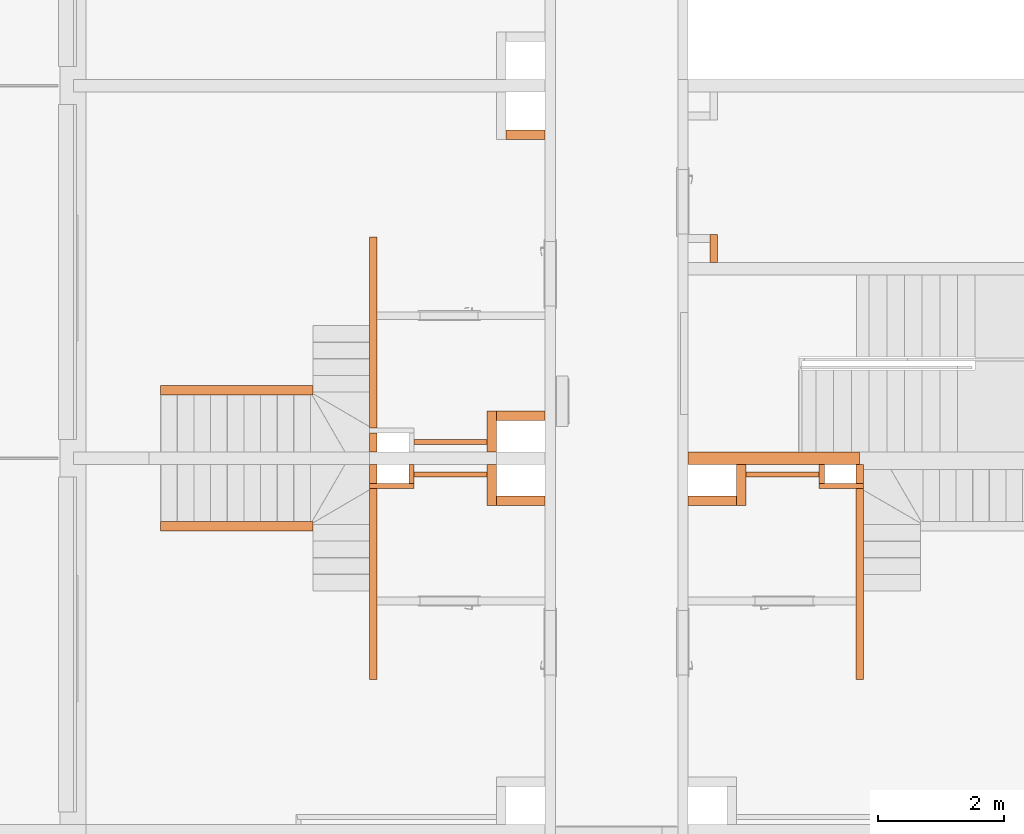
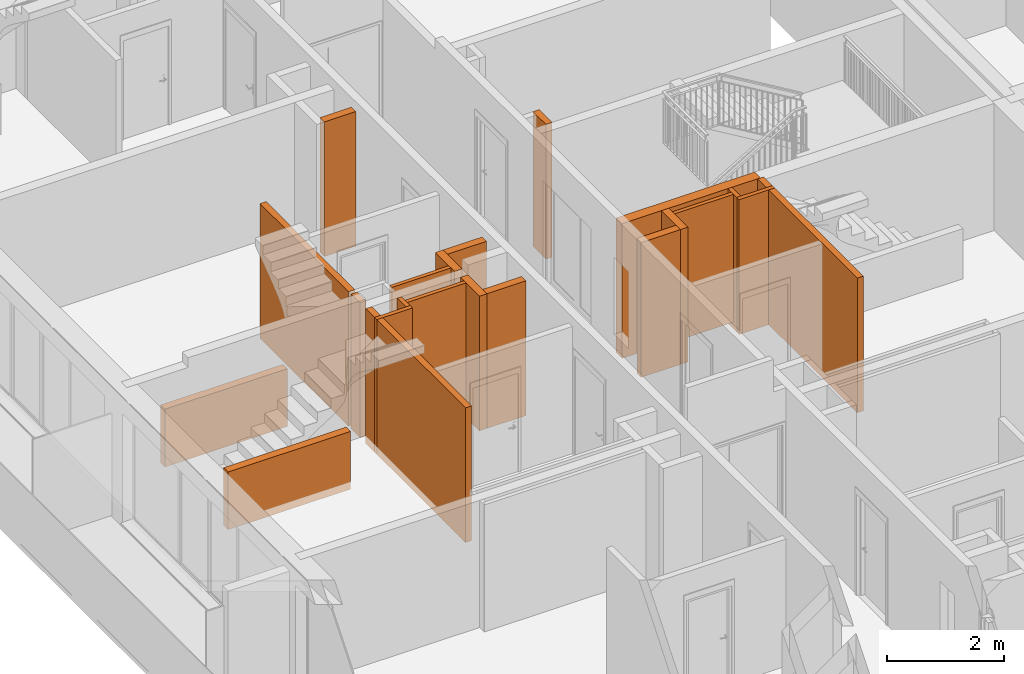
# One storey, part 47 of 61: 21 proxies.
"""IFC2X3 building model written with IfcOpenShell, lengths in millimetres."""

from ifc_helpers import new_model, entity, si_unit, converted_unit, derived_unit, money_unit, direction, frame, origin_with_axes, place, context, subcontext, project, spatial, faceted_brep, material, material_list, type_object, element, save


model = new_model("IFC2X3")

# Units and contexts
model_context = context("Model", 3, precision=0.01, world=origin_with_axes(), true_north=direction((0.34421633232, 0.938890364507)))
body_context = subcontext(model_context, "Body", "Model", "MODEL_VIEW")
ifc_project = project(units=[si_unit("LENGTHUNIT", "METRE", prefix="MILLI"), si_unit("AREAUNIT", "SQUARE_METRE"), si_unit("VOLUMEUNIT", "CUBIC_METRE"), converted_unit("PLANEANGLEUNIT", "DEGREE", entity("IfcPlaneAngleMeasure", 0.0174532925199), si_unit("PLANEANGLEUNIT", "RADIAN"), dimensions=[0, 0, 0, 0, 0, 0, 0]), si_unit("SOLIDANGLEUNIT", "STERADIAN"), money_unit("USD"), converted_unit("TIMEUNIT", "Year", entity("IfcTimeMeasure", 31556926.0), si_unit("TIMEUNIT", "SECOND"), dimensions=[0, 0, 1, 0, 0, 0, 0]), si_unit("MASSUNIT", "GRAM", prefix="KILO"), si_unit("THERMODYNAMICTEMPERATUREUNIT", "DEGREE_CELSIUS"), si_unit("LUMINOUSINTENSITYUNIT", "LUMEN"), si_unit("ENERGYUNIT", "JOULE", prefix="MEGA"), derived_unit("THERMALCONDUCTANCEUNIT", [(si_unit("POWERUNIT", "WATT"), 1), (si_unit("LENGTHUNIT", "METRE"), -1), (si_unit("THERMODYNAMICTEMPERATUREUNIT", "KELVIN"), -1)]), derived_unit("SPECIFICHEATCAPACITYUNIT", [(si_unit("ENERGYUNIT", "JOULE"), 1), (si_unit("MASSUNIT", "GRAM", prefix="KILO"), -1), (si_unit("THERMODYNAMICTEMPERATUREUNIT", "KELVIN"), -1)]), derived_unit("MASSDENSITYUNIT", [(si_unit("MASSUNIT", "GRAM", prefix="KILO"), 1), (si_unit("VOLUMEUNIT", "CUBIC_METRE"), -1)])], contexts=[model_context])

# Site, building, storey
site_placement = place(None, origin_with_axes())
site = spatial("IfcSite", under=ifc_project, at=site_placement, Name="USTRONIE MORSKIE", CompositionType="ELEMENT")
building_placement = place(site_placement, origin_with_axes())
building = spatial("IfcBuilding", under=site, at=building_placement, Name="Budynek", CompositionType="ELEMENT")
storey_placement = place(building_placement, frame((0.0, 0.0, 13000.0), z_axis=(0.0, 0.0, 1.0), x_axis=(1.0, 0.0, 0.0)))
storey = spatial("IfcBuildingStorey", under=building, at=storey_placement, Name="PIĘTRO 4", CompositionType="ELEMENT", Elevation=13000.0)

# Proxies
ifc_material_1 = material(Name="Bloczki silikatowe")
building_element_proxy_type_1 = type_object("IfcBuildingElementProxyType", Name="Bloczki silikatowe 120", PredefinedType="NOTDEFINED")
proxy_1_placement = place(storey_placement, frame((362417.920919, 726901.198998, -160.0), z_axis=(0.0, 0.0, 1.0), x_axis=(0.0, -1.0, 0.0)))
element("IfcBuildingElementProxy", 1, at=proxy_1_placement, inside=storey, type_object=building_element_proxy_type_1, material=ifc_material_1, Name="SW-04", context=body_context, shape_type="Brep", body=[
    faceted_brep([(400.000444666, 60.0, 0.0), (99.9999622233, 60.0, 0.0), (99.9999622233, 60.0, 2800.0), (400.000444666, 60.0, 2800.0), (99.9999622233, -60.0, 0.0), (99.9999622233, 0.0, 0.0), (400.000444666, -60.0, 0.0), (99.9999622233, 0.0, 2800.0), (99.9999622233, -60.0, 2800.0), (400.000444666, -60.0, 2800.0)], [[[0, 1, 2, 3]], [[4, 5, 1, 0, 6]], [[5, 7, 2, 1]], [[2, 7, 8, 9, 3]], [[6, 0, 3, 9]], [[4, 8, 7, 5]], [[9, 8, 4, 6]]]),
    faceted_brep([(480.000444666, 60.0, 0.0), (480.000444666, 60.0, 2800.0), (3499.97686691, 60.0, 2800.0), (3499.97686691, 60.0, 0.0), (480.000444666, -60.0, 2800.0), (480.000444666, -60.0, 0.0), (3499.97686691, -60.0, 2800.0), (3499.97686691, -60.0, 0.0)], [[[0, 1, 2, 3]], [[4, 1, 0, 5]], [[1, 4, 6, 2]], [[6, 7, 3, 2]], [[5, 0, 3, 7]], [[4, 5, 7, 6]]]),
])
proxy_2_placement = place(storey_placement, frame((354717.920919, 726901.199074, -160.0), z_axis=(0.0, 0.0, 1.0), x_axis=(0.0, 1.0, 0.0)))
element("IfcBuildingElementProxy", 2, at=proxy_2_placement, inside=storey, type_object=building_element_proxy_type_1, material=ifc_material_1, Name="SW-04", context=body_context, shape_type="Brep", body=[
    faceted_brep([(400.000444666, 60.0, 0.0), (399.999962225, 60.0, 2800.0), (399.999962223, -60.0, 2800.0), (400.000444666, -60.0, 0.0), (99.9999622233, 60.0, 0.0), (99.9999622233, 60.0, 2800.0), (99.9999622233, -60.0, 2800.0), (99.9999622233, -60.0, 0.0)], [[[0, 1, 2, 3]], [[4, 5, 1, 0]], [[5, 6, 2, 1]], [[3, 2, 6, 7]], [[7, 4, 0, 3]], [[7, 6, 5, 4]]]),
    faceted_brep([(3499.97686691, 60.0, 0.0), (3499.97686691, 60.0, 2800.0), (3499.97686691, -60.0, 2800.0), (3499.97686691, -60.0, 0.0), (480.000444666, 60.0, 2800.0), (2099.97686691, 60.0, 2800.0), (480.000444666, 60.0, 0.0), (480.000444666, -60.0, 2800.0), (480.000444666, -60.0, 0.0)], [[[0, 1, 2, 3]], [[4, 5, 1, 0, 6]], [[7, 2, 1, 5, 4]], [[3, 2, 7, 8]], [[0, 3, 8, 6]], [[8, 7, 4, 6]]]),
])
proxy_3_placement = place(storey_placement, frame((354717.920919, 726901.198998, -160.0), z_axis=(0.0, 0.0, 1.0), x_axis=(0.0, -1.0, 0.0)))
element("IfcBuildingElementProxy", 3, at=proxy_3_placement, inside=storey, type_object=building_element_proxy_type_1, material=ifc_material_1, Name="SW-04", context=body_context, shape_type="Brep", body=[
    faceted_brep([(480.000444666, -60.0, 2800.0), (2099.99996266, -60.0, 2800.0), (3499.97686691, -60.0, 2800.0), (3499.97686691, 60.0, 2800.0), (480.000444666, 60.0, 2800.0), (3499.97686691, -60.0, 0.0), (480.000444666, -60.0, 0.0), (3499.97686691, 60.0, 0.0), (480.000444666, 60.0, 0.0)], [[[0, 1, 2, 3, 4]], [[5, 2, 1, 0, 6]], [[7, 3, 2, 5]], [[4, 3, 7, 8]], [[6, 0, 4, 8]], [[7, 5, 6, 8]]]),
    faceted_brep([(99.9999622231, -60.0, 0.0), (99.9999622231, -60.0, 2800.0), (99.9999622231, 60.0, 2800.0), (99.9999622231, 60.0, 0.0), (400.000444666, -60.0, 0.0), (400.000444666, -60.0, 2800.0), (400.000444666, 60.0, 2800.0), (400.000444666, 60.0, 0.0)], [[[0, 1, 2, 3]], [[4, 5, 1, 0]], [[5, 6, 2, 1]], [[3, 2, 6, 7]], [[0, 3, 7, 4]], [[7, 6, 5, 4]]]),
])
proxy_4_placement = place(storey_placement, frame((360047.920919, 729901.198865, -160.0), z_axis=(0.0, 0.0, 1.0), x_axis=(0.0, 1.0, 0.0)))
element("IfcBuildingElementProxy", 4, at=proxy_4_placement, inside=storey, type_object=building_element_proxy_type_1, material=ifc_material_1, Name="SW-04", context=body_context, shape_type="Brep", body=[
    faceted_brep([(540.000171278, -120.0, 2800.0), (540.000171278, 0.0, 2800.0), (100.000168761, 0.0, 2800.0), (100.000168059, -120.0, 2800.0), (540.000171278, -120.0, 0.0), (540.000171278, 0.0, 0.0), (100.000168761, 0.0, 0.0), (100.000168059, -120.0, 0.0)], [[[0, 1, 2, 3]], [[1, 0, 4, 5]], [[1, 5, 6, 2]], [[7, 3, 2, 6]], [[4, 0, 3, 7]], [[5, 4, 7, 6]]]),
])
ifc_material_2 = material(Name="Płyta GK")
ifc_material_3 = material(Name="-Pustka powietrzna")
ifc_material_list_1 = material_list([ifc_material_2, ifc_material_2, ifc_material_3])
building_element_proxy_type_2 = type_object("IfcBuildingElementProxyType", Name="330-SD GK 2-warstwy 75", PredefinedType="NOTDEFINED")
proxy_5_placement = place(storey_placement, frame((361817.920919, 726631.200807, -180.0), z_axis=(0.0, 0.0, 1.0), x_axis=(-1.0, 0.0, 0.0)))
element("IfcBuildingElementProxy", 5, at=proxy_5_placement, inside=storey, type_object=building_element_proxy_type_2, material=ifc_material_list_1, Name="Ściana-009", context=body_context, shape_type="Brep", body=[
    faceted_brep([(40.0, 25.0, 165.0), (40.0, 12.5, 165.0), (40.0, 12.5, 2820.0), (40.0, 25.0, 2820.0), (1199.99909883, 12.5, 165.0), (1199.99909883, 25.0, 165.0), (1199.99909883, 12.5, 2820.0), (1199.99909883, 25.0, 2820.0)], [[[0, 1, 2, 3]], [[4, 1, 0, 5]], [[1, 4, 6, 2]], [[2, 6, 7, 3]], [[5, 0, 3, 7]], [[4, 5, 7, 6]]]),
    faceted_brep([(40.0, 12.5, 165.0), (40.0, 0.0, 165.0), (40.0, 0.0, 2820.0), (40.0, 12.5, 2820.0), (1199.99909883, 0.0, 165.0), (1199.99909883, 12.5, 165.0), (1199.99909883, 0.0, 2820.0), (1199.99909883, 12.5, 2820.0)], [[[0, 1, 2, 3]], [[4, 1, 0, 5]], [[1, 4, 6, 2]], [[2, 6, 7, 3]], [[5, 0, 3, 7]], [[4, 5, 7, 6]]]),
    faceted_brep([(40.0, 0.0, 180.0), (40.0, -50.0, 180.0), (40.0, -50.0, 2820.0), (40.0, 0.0, 2820.0), (1199.99909883, -50.0, 180.0), (1199.99909883, 0.0, 180.0), (1199.99909883, -50.0, 2820.0), (1199.99909883, 0.0, 2820.0)], [[[0, 1, 2, 3]], [[4, 1, 0, 5]], [[1, 4, 6, 2]], [[2, 6, 7, 3]], [[5, 0, 3, 7]], [[4, 5, 7, 6]]]),
])
ifc_material_list_2 = material_list([ifc_material_3, ifc_material_2, ifc_material_2])
proxy_6_placement = place(storey_placement, frame((355317.920919, 726631.200807, -180.0), z_axis=(0.0, 0.0, 1.0), x_axis=(1.0, 0.0, 0.0)))
element("IfcBuildingElementProxy", 6, at=proxy_6_placement, inside=storey, type_object=building_element_proxy_type_2, material=ifc_material_list_2, Name="Ściana-009", context=body_context, shape_type="Brep", body=[
    faceted_brep([(1199.99909883, 0.0, 180.0), (1199.99909883, 50.0, 180.0), (1199.99909883, 50.0, 2820.0), (1199.99909883, 0.0, 2820.0), (40.0, 50.0, 180.0), (40.0, 0.0, 180.0), (40.0, 50.0, 2820.0), (40.0, 0.0, 2820.0)], [[[0, 1, 2, 3]], [[4, 1, 0, 5]], [[1, 4, 6, 2]], [[7, 3, 2, 6]], [[5, 0, 3, 7]], [[4, 5, 7, 6]]]),
    faceted_brep([(1199.99909883, -12.5, 165.0), (1199.99909883, 0.0, 165.0), (1199.99909883, 0.0, 2820.0), (1199.99909883, -12.5, 2820.0), (40.0, 0.0, 165.0), (40.0, -12.5, 165.0), (40.0, 0.0, 2820.0), (40.0, -12.5, 2820.0)], [[[0, 1, 2, 3]], [[4, 1, 0, 5]], [[1, 4, 6, 2]], [[7, 3, 2, 6]], [[5, 0, 3, 7]], [[4, 5, 7, 6]]]),
    faceted_brep([(1199.99909883, -25.0, 165.0), (1199.99909883, -12.5, 165.0), (1199.99909883, -12.5, 2820.0), (1199.99909883, -25.0, 2820.0), (40.0, -12.5, 165.0), (40.0, -25.0, 165.0), (40.0, -12.5, 2820.0), (40.0, -25.0, 2820.0)], [[[0, 1, 2, 3]], [[4, 1, 0, 5]], [[1, 4, 6, 2]], [[7, 3, 2, 6]], [[5, 0, 3, 7]], [[4, 5, 7, 6]]]),
])
proxy_7_placement = place(storey_placement, frame((355317.920919, 727171.200737, -180.0), z_axis=(0.0, 0.0, 1.0), x_axis=(1.0, 0.0, 0.0)))
element("IfcBuildingElementProxy", 7, at=proxy_7_placement, inside=storey, type_object=building_element_proxy_type_2, material=ifc_material_list_1, Name="Ściana-009", context=body_context, shape_type="Brep", body=[
    faceted_brep([(1199.99909883, 12.5, 165.0), (1199.99909883, 25.0, 165.0), (1199.99909883, 25.0, 2820.0), (1199.99909883, 12.5, 2820.0), (40.0, 25.0, 165.0), (40.0, 12.5, 165.0), (40.0, 25.0, 2820.0), (40.0, 12.5, 2820.0)], [[[0, 1, 2, 3]], [[4, 1, 0, 5]], [[1, 4, 6, 2]], [[7, 3, 2, 6]], [[5, 0, 3, 7]], [[4, 5, 7, 6]]]),
    faceted_brep([(1199.99909883, 0.0, 165.0), (1199.99909883, 12.5, 165.0), (1199.99909883, 12.5, 2820.0), (1199.99909883, 0.0, 2820.0), (40.0, 12.5, 165.0), (40.0, 0.0, 165.0), (40.0, 12.5, 2820.0), (40.0, 0.0, 2820.0)], [[[0, 1, 2, 3]], [[4, 1, 0, 5]], [[1, 4, 6, 2]], [[7, 3, 2, 6]], [[5, 0, 3, 7]], [[4, 5, 7, 6]]]),
    faceted_brep([(1199.99909883, -50.0, 180.0), (1199.99909883, 0.0, 180.0), (1199.99909883, 0.0, 2820.0), (1199.99909883, -50.0, 2820.0), (40.0, 0.0, 180.0), (40.0, -50.0, 180.0), (40.0, 0.0, 2820.0), (40.0, -50.0, 2820.0)], [[[0, 1, 2, 3]], [[4, 1, 0, 5]], [[1, 4, 6, 2]], [[7, 3, 2, 6]], [[5, 0, 3, 7]], [[4, 5, 7, 6]]]),
])
building_element_proxy_type_3 = type_object("IfcBuildingElementProxyType", Name="Bloczki silikatowe 80", PredefinedType="NOTDEFINED")
proxy_8_placement = place(storey_placement, frame((361817.920919, 726901.199036, -160.0), z_axis=(0.0, 0.0, 1.0), x_axis=(0.0, -1.0, 0.0)))
element("IfcBuildingElementProxy", 8, at=proxy_8_placement, inside=storey, type_object=building_element_proxy_type_3, material=ifc_material_1, Name="Ściana-010", context=body_context, shape_type="Brep", body=[
    faceted_brep([(400.000482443, 40.0, 0.0), (400.000482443, -40.0, 0.0), (100.0, -40.0, 0.0), (100.0, 40.0, 0.0), (400.000482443, 40.0, 2800.0), (400.000482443, -40.0, 2800.0), (100.0, -40.0, 2800.0), (100.0, 40.0, 2800.0)], [[[0, 1, 2, 3]], [[1, 0, 4, 5]], [[1, 5, 6, 2]], [[7, 3, 2, 6]], [[4, 0, 3, 7]], [[5, 4, 7, 6]]]),
])
proxy_9_placement = place(storey_placement, frame((354717.920919, 726461.198554, -160.0), z_axis=(0.0, 0.0, 1.0), x_axis=(1.0, 0.0, 0.0)))
element("IfcBuildingElementProxy", 9, at=proxy_9_placement, inside=storey, type_object=building_element_proxy_type_3, material=ifc_material_1, Name="Ściana-009", context=body_context, shape_type="Brep", body=[
    faceted_brep([(640.0, -40.0, 2800.0), (640.0, 40.0, 2800.0), (-60.0, 40.0, 2800.0), (-60.0, -40.0, 2800.0), (640.0, -40.0, 0.0), (640.0, 40.0, 0.0), (-60.0, 40.0, 0.0), (-60.0, -40.0, 0.0)], [[[0, 1, 2, 3]], [[1, 0, 4, 5]], [[1, 5, 6, 2]], [[7, 3, 2, 6]], [[4, 0, 3, 7]], [[5, 4, 7, 6]]]),
])
proxy_10_placement = place(storey_placement, frame((362417.920919, 726461.198554, -160.0), z_axis=(0.0, 0.0, 1.0), x_axis=(-1.0, 0.0, 0.0)))
element("IfcBuildingElementProxy", 10, at=proxy_10_placement, inside=storey, type_object=building_element_proxy_type_3, material=ifc_material_1, Name="Ściana-009", context=body_context, shape_type="Brep", body=[
    faceted_brep([(640.0, 40.0, 0.0), (640.0, -40.0, 0.0), (-60.0, -40.0, 0.0), (-60.0, 40.0, 0.0), (640.0, 40.0, 2800.0), (640.0, -40.0, 2800.0), (-60.0, -40.0, 2800.0), (-60.0, 40.0, 2800.0)], [[[0, 1, 2, 3]], [[1, 0, 4, 5]], [[1, 5, 6, 2]], [[7, 3, 2, 6]], [[4, 0, 3, 7]], [[5, 4, 7, 6]]]),
])
proxy_11_placement = place(storey_placement, frame((355317.920919, 726901.199036, -160.0), z_axis=(0.0, 0.0, 1.0), x_axis=(0.0, -1.0, 0.0)))
element("IfcBuildingElementProxy", 11, at=proxy_11_placement, inside=storey, type_object=building_element_proxy_type_3, material=ifc_material_1, Name="Ściana-010", context=body_context, shape_type="Brep", body=[
    faceted_brep([(400.000482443, 40.0, 0.0), (100.0, 40.0, 0.0), (100.0, 40.0, 2799.99999941), (400.000482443, 40.0, 2800.0), (400.000482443, -40.0, 0.0), (100.0, -40.0, 0.0), (100.0, -40.0, 2799.99999938), (400.000482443, -40.0, 2800.0)], [[[0, 1, 2, 3]], [[4, 5, 1, 0]], [[5, 6, 2, 1]], [[3, 2, 6, 7]], [[4, 0, 3, 7]], [[7, 6, 5, 4]]]),
])
building_element_proxy_type_4 = type_object("IfcBuildingElementProxyType", Name="Bloczki silikatowe 150", PredefinedType="NOTDEFINED")
proxy_12_placement = place(storey_placement, frame((353757.920919, 727976.181235, -160.0), z_axis=(0.0, 0.0, 1.0), x_axis=(-1.0, 0.0, 0.0)))
element("IfcBuildingElementProxy", 12, at=proxy_12_placement, inside=storey, type_object=building_element_proxy_type_4, material=ifc_material_1, Name="SW-03", context=body_context, shape_type="Brep", body=[
    faceted_brep([(0.0, -75.0, 1200.0), (2410.0, -75.0, 1200.0), (2410.0, 75.0, 1200.0), (0.0, 75.0, 1200.0), (0.0, -75.0, 0.0), (2410.0, -75.0, 0.0), (2410.0, 75.0, 0.0), (0.0, 75.0, 0.0)], [[[0, 1, 2, 3]], [[4, 5, 1, 0]], [[2, 1, 5, 6]], [[3, 2, 6, 7]], [[4, 0, 3, 7]], [[7, 6, 5, 4]]]),
])
proxy_13_placement = place(storey_placement, frame((356592.920018, 726901.200136, -160.0), z_axis=(0.0, 0.0, 1.0), x_axis=(0.0, -1.0, 0.0)))
element("IfcBuildingElementProxy", 13, at=proxy_13_placement, inside=storey, type_object=building_element_proxy_type_4, material=ifc_material_1, Name="SW-03", context=body_context, shape_type="Brep", body=[
    faceted_brep([(750.003077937, -75.0, 2800.0), (750.003077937, 75.0, 2800.0), (100.001100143, 75.0, 2800.0), (100.001100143, -75.0, 2800.0), (750.003077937, -75.0, 0.0), (750.003077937, 75.0, 0.0), (100.001100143, 75.0, 0.0), (100.001100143, -75.0, 0.0)], [[[0, 1, 2, 3]], [[1, 0, 4, 5]], [[1, 5, 6, 2]], [[7, 3, 2, 6]], [[4, 0, 3, 7]], [[5, 4, 7, 6]]]),
])
proxy_14_placement = place(storey_placement, frame((356592.920018, 726901.200134, -160.0), z_axis=(0.0, 0.0, 1.0), x_axis=(0.0, 1.0, 0.0)))
element("IfcBuildingElementProxy", 14, at=proxy_14_placement, inside=storey, type_object=building_element_proxy_type_4, material=ifc_material_1, Name="SW-03", context=body_context, shape_type="Brep", body=[
    faceted_brep([(750.000879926, 75.0, 2800.0), (99.9989021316, 75.0, 2799.99999971), (99.9989021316, -75.0, 2799.99999975), (750.000879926, -75.0, 2800.0), (750.000879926, 75.0, 0.0), (99.9989021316, 75.0, 0.0), (99.9989021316, -75.0, 0.0), (750.000879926, -75.0, 0.0)], [[[0, 1, 2, 3]], [[4, 5, 1, 0]], [[5, 6, 2, 1]], [[3, 2, 6, 7]], [[0, 3, 7, 4]], [[7, 6, 5, 4]]]),
])
proxy_15_placement = place(storey_placement, frame((360542.92182, 726226.197058, -160.0), z_axis=(0.0, 0.0, 1.0), x_axis=(-1.0, 0.0, 0.0)))
element("IfcBuildingElementProxy", 15, at=proxy_15_placement, inside=storey, type_object=building_element_proxy_type_4, material=ifc_material_1, Name="SW-03", context=body_context, shape_type="Brep", body=[
    faceted_brep([(845.00090117, 75.0, 0.0), (845.00090117, -75.0, 0.0), (75.0, -75.0, 0.0), (75.0, 75.0, 0.0), (845.00090117, 75.0, 2800.0), (845.00090117, -75.0, 2800.0), (75.0, -75.0, 2800.0), (75.0, 75.0, 2800.0)], [[[0, 1, 2, 3]], [[1, 0, 4, 5]], [[1, 5, 6, 2]], [[7, 3, 2, 6]], [[4, 0, 3, 7]], [[5, 4, 7, 6]]]),
])
proxy_16_placement = place(storey_placement, frame((356592.920018, 726226.197058, -160.0), z_axis=(0.0, 0.0, 1.0), x_axis=(1.0, 0.0, 0.0)))
element("IfcBuildingElementProxy", 16, at=proxy_16_placement, inside=storey, type_object=building_element_proxy_type_4, material=ifc_material_1, Name="SW-03", context=body_context, shape_type="Brep", body=[
    faceted_brep([(845.00090117, -75.0, 2800.0), (845.00090117, 75.0, 2800.0), (75.0, 75.0, 2800.0), (75.0, -75.0, 2800.0), (845.00090117, -75.0, 0.0), (845.00090117, 75.0, 0.0), (75.0, 75.0, 0.0), (75.0, -75.0, 0.0)], [[[0, 1, 2, 3]], [[1, 0, 4, 5]], [[1, 5, 6, 2]], [[7, 3, 2, 6]], [[4, 0, 3, 7]], [[5, 4, 7, 6]]]),
])
proxy_17_placement = place(storey_placement, frame((356592.920018, 727576.201014, -160.0), z_axis=(0.0, 0.0, 1.0), x_axis=(1.0, 0.0, 0.0)))
element("IfcBuildingElementProxy", 17, at=proxy_17_placement, inside=storey, type_object=building_element_proxy_type_4, material=ifc_material_1, Name="SW-03", context=body_context, shape_type="Brep", body=[
    faceted_brep([(845.00090117, 75.0, 0.0), (845.00090117, -75.0, 0.0), (75.0, -75.0, 0.0), (75.0, 75.0, 0.0), (845.00090117, 75.0, 2800.0), (845.00090117, -75.0, 2800.0), (75.0, -75.0, 2800.0), (75.0, 75.0, 2800.0)], [[[0, 1, 2, 3]], [[1, 0, 4, 5]], [[1, 5, 6, 2]], [[7, 3, 2, 6]], [[4, 0, 3, 7]], [[5, 4, 7, 6]]]),
])
proxy_18_placement = place(storey_placement, frame((360542.92182, 726901.200136, -160.0), z_axis=(0.0, 0.0, 1.0), x_axis=(0.0, -1.0, 0.0)))
element("IfcBuildingElementProxy", 18, at=proxy_18_placement, inside=storey, type_object=building_element_proxy_type_4, material=ifc_material_1, Name="SW-03", context=body_context, shape_type="Brep", body=[
    faceted_brep([(750.003077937, 75.0, 0.0), (750.003077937, -75.0, 0.0), (100.001100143, -75.0, 0.0), (100.001100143, 75.0, 0.0), (750.003077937, 75.0, 2800.0), (750.003077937, -75.0, 2800.0), (100.001100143, -75.0, 2800.0), (100.001100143, 75.0, 2800.0)], [[[0, 1, 2, 3]], [[1, 0, 4, 5]], [[1, 5, 6, 2]], [[7, 3, 2, 6]], [[4, 0, 3, 7]], [[5, 4, 7, 6]]]),
])
proxy_19_placement = place(storey_placement, frame((356817.920919, 732101.199036, -160.0), z_axis=(0.0, 0.0, 1.0), x_axis=(1.0, 0.0, 0.0)))
element("IfcBuildingElementProxy", 19, at=proxy_19_placement, inside=storey, type_object=building_element_proxy_type_4, material=ifc_material_1, Name="SW-03", context=body_context, shape_type="Brep", body=[
    faceted_brep([(620.0, -150.0, 2800.0), (620.0, 0.0, 2800.0), (0.0, 0.0, 2800.0), (0.0, -150.0, 2800.0), (620.0, -150.0, 0.0), (620.0, 0.0, 0.0), (0.0, 0.0, 0.0), (0.0, -150.0, 0.0)], [[[0, 1, 2, 3]], [[1, 0, 4, 5]], [[1, 5, 6, 2]], [[7, 3, 2, 6]], [[4, 0, 3, 7]], [[5, 4, 7, 6]]]),
])
proxy_20_placement = place(storey_placement, frame((353757.920919, 725826.216838, -160.0), z_axis=(0.0, 0.0, 1.0), x_axis=(-1.0, 0.0, 0.0)))
element("IfcBuildingElementProxy", 20, at=proxy_20_placement, inside=storey, type_object=building_element_proxy_type_4, material=ifc_material_1, Name="SW-03", context=body_context, shape_type="Brep", body=[
    faceted_brep([(0.0, 75.0, 0.0), (2410.0, 75.0, 0.0), (2410.0, -75.0, 0.0), (0.0, -75.0, 0.0), (0.0, 75.0, 1200.0), (2410.0, 75.0, 1200.0), (2410.0, -75.0, 1200.0), (0.0, -75.0, 1200.0)], [[[0, 1, 2, 3]], [[4, 5, 1, 0]], [[2, 1, 5, 6]], [[3, 2, 6, 7]], [[4, 0, 3, 7]], [[7, 6, 5, 4]]]),
])
ifc_material_4 = material(Name="Beton konstrukcyjny B25")
building_element_proxy_type_5 = type_object("IfcBuildingElementProxyType", Name="Beton konstrukcyjny B25 200", PredefinedType="NOTDEFINED")
proxy_21_placement = place(storey_placement, frame((362417.920919, 726901.199036, -160.0), z_axis=(0.0, 0.0, 1.0), x_axis=(-1.0, 0.0, 0.0)))
element("IfcBuildingElementProxy", 21, at=proxy_21_placement, inside=storey, type_object=building_element_proxy_type_5, material=ifc_material_4, Name="SW-01", context=body_context, shape_type="Brep", body=[
    faceted_brep([(2720.0, -100.0, 0.0), (0.0, -100.0, 0.0), (0.0, 100.0, 0.0), (2720.0, 100.0, 0.0), (2720.0, -100.0, 2800.0), (0.0, -100.0, 2800.0), (0.0, 100.0, 2800.0), (2720.0, 100.0, 2800.0)], [[[0, 1, 2, 3]], [[4, 5, 1, 0]], [[1, 5, 6, 2]], [[3, 2, 6, 7]], [[7, 4, 0, 3]], [[7, 6, 5, 4]]]),
])

save(model, "model.ifc")
